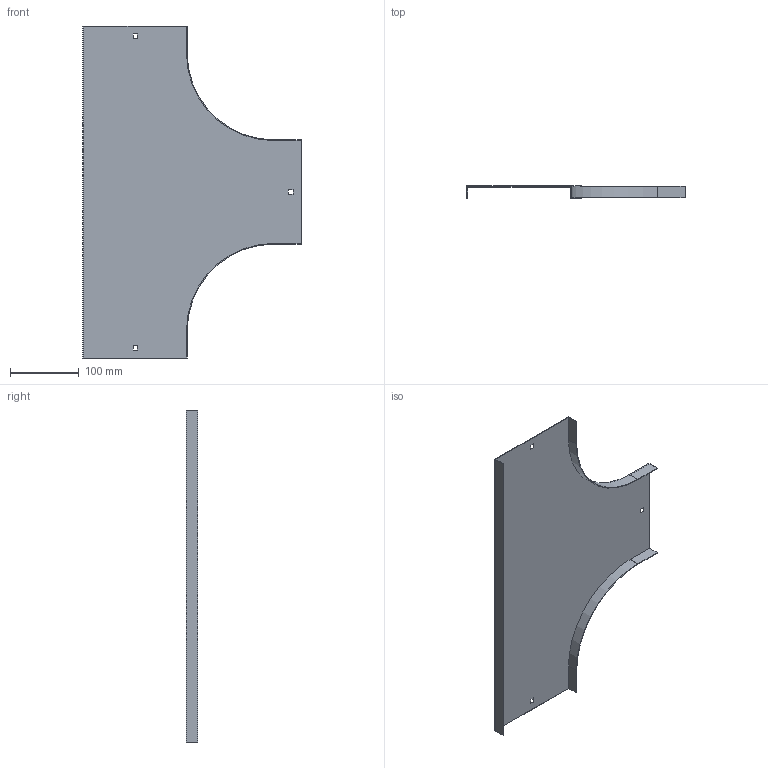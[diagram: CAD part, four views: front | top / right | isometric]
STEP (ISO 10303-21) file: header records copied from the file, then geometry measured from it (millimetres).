
FILE_DESCRIPTION (( 'STEP AP214' ), '1' );
FILE_NAME ('OT_150.step', '2025-07-16T09:18:03', ( '' ), ( '' ), 'SwSTEP 2.0', 'SolidWorks 2023', '' );
FILE_SCHEMA (( 'AUTOMOTIVE_DESIGN' ));
Length unit declared in the file: millimetre
Products named in the file (1): OT_150
Bounding box: 318 x 17 x 484 mm (x, y, z)
Volume: 122150.6 mm3; surface area: 245971.1 mm2
Topology: 1 solids, 1 shells, 34 faces, 96 edges, 64 vertices
Faces by surface type: plane 30, cylinder 4
Entity records: 1123 total; most frequent: CARTESIAN_POINT 195, ORIENTED_EDGE 192, DIRECTION 174, EDGE_CURVE 96, LINE 88, VECTOR 88, VERTEX_POINT 64, AXIS2_PLACEMENT_3D 43
